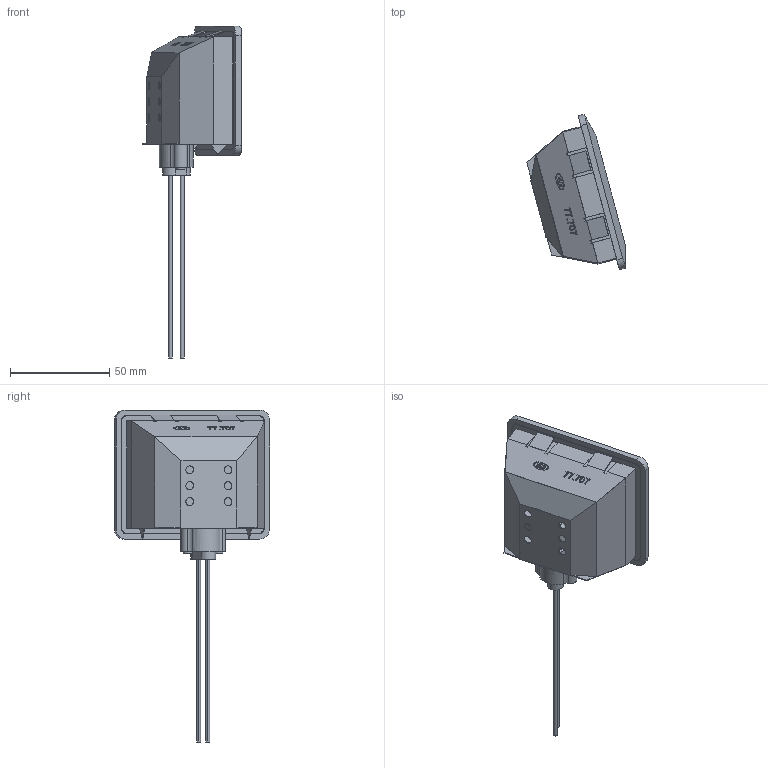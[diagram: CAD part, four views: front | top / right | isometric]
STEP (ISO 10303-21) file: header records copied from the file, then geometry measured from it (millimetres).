
FILE_DESCRIPTION(('CAx-IF Rec.Pracs.---Model Styling and Organization---1.2---2011-12-15','CAx-IF Rec.Pracs.---Geometric and Assembly Validation Properties---4.1---2014-06-16','CAx-IF Rec.Pracs.---PMI Polyline Presentation---2.0---2013-05-24'),'2;1');
FILE_NAME('00CYK02Y06.stp','2021-07-26T07:26:42+02:00',(''),(''),'STEP Interface 4.4 by CT CoreTechnologie','3D_Evolution4.4 by CT CoreTechnologie','');
FILE_SCHEMA(('AP203_CONFIGURATION_CONTROLLED_3D_DESIGN_OF_MECHANICAL_PARTS_AND_ASSEMBLIES_MIM_LF'));
Length unit declared in the file: millimetre
Products named in the file (5): 00CYK02Y06; 00A-P01-03; 00C-J03-05; 00C-K1C-03; 00L-101-07
Assembly tree (4 placements, depth 2):
  00CYK02Y06
    00A-P01-03
    00C-J03-05
    00C-K1C-03
    00L-101-07
Bounding box: 49.52 x 78.05 x 167.1 mm (x, y, z)
Volume: 37857.7 mm3; surface area: 39349 mm2
Topology: 4 solids, 4 shells, 318 faces, 868 edges, 590 vertices
Faces by surface type: plane 188, cylinder 100, bspline 30
Entity records: 29791 total; most frequent: CARTESIAN_POINT 3264, PROPERTY_DEFINITION 2721, ORIENTED_EDGE 1736, DIRECTION 1712, SHAPE_REPRESENTATION 1363, REPRESENTATION 1363, GENERAL_PROPERTY 1363, PROPERTY_DEFINITION_REPRESENTATION 1363
